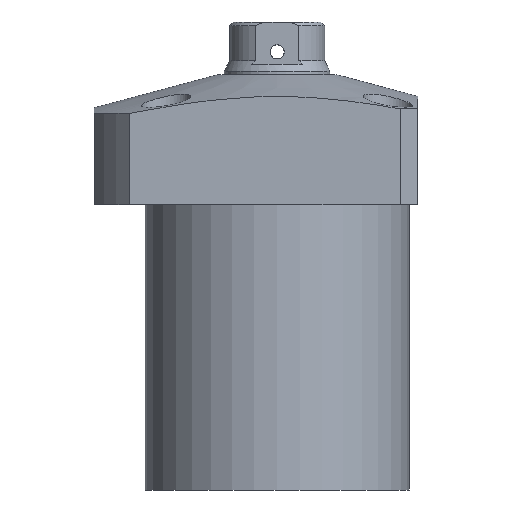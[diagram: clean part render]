
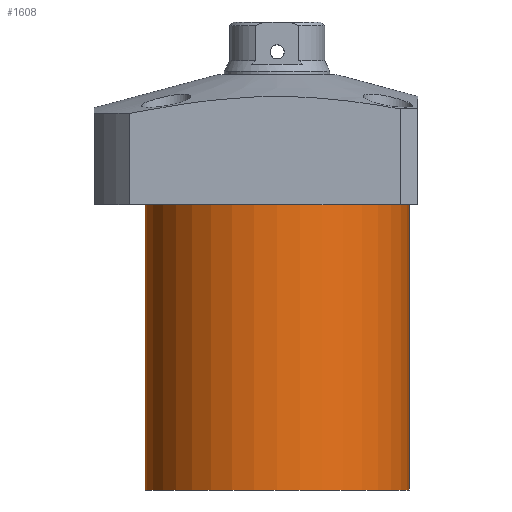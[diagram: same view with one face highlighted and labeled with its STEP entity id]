
A CAD part, front view. The second image highlights one B-rep face of the part: STEP entity #1608.
In plain terms, the highlighted cylindrical face has radius 37.5 mm (diameter 75 mm), a partial arc.
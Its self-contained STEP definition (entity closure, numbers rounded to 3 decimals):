
#55 = VECTOR ( 'NONE', #1422, 1000. ) ;
#71 = EDGE_CURVE ( 'NONE', #261, #545, #245, .T. ) ;
#138 = CARTESIAN_POINT ( 'NONE',  ( 0., 0., -99.5 ) ) ;
#149 = CARTESIAN_POINT ( 'NONE',  ( 0., 0., -99.5 ) ) ;
#245 = CIRCLE ( 'NONE', #327, 37.5 ) ;
#261 = VERTEX_POINT ( 'NONE', #1863 ) ;
#327 = AXIS2_PLACEMENT_3D ( 'NONE', #2515, #2526, #798 ) ;
#351 = FACE_OUTER_BOUND ( 'NONE', #1624, .T. ) ;
#368 = DIRECTION ( 'NONE',  ( 0., 0., 1. ) ) ;
#410 = CARTESIAN_POINT ( 'NONE',  ( 37.5, 0., -99.5 ) ) ;
#427 = VECTOR ( 'NONE', #2055, 1000. ) ;
#450 = ORIENTED_EDGE ( 'NONE', *, *, #2692, .F. ) ;
#545 = VERTEX_POINT ( 'NONE', #1881 ) ;
#596 = DIRECTION ( 'NONE',  ( 1., 0., 0. ) ) ;
#753 = AXIS2_PLACEMENT_3D ( 'NONE', #149, #368, #596 ) ;
#758 = ORIENTED_EDGE ( 'NONE', *, *, #1477, .T. ) ;
#798 = DIRECTION ( 'NONE',  ( 1., 0., 0. ) ) ;
#890 = ORIENTED_EDGE ( 'NONE', *, *, #71, .T. ) ;
#1084 = CARTESIAN_POINT ( 'NONE',  ( -37.5, 0., -99.5 ) ) ;
#1171 = CARTESIAN_POINT ( 'NONE',  ( 37.5, 0., -99.5 ) ) ;
#1187 = VERTEX_POINT ( 'NONE', #410 ) ;
#1209 = VERTEX_POINT ( 'NONE', #1084 ) ;
#1282 = AXIS2_PLACEMENT_3D ( 'NONE', #138, #1398, #2516 ) ;
#1398 = DIRECTION ( 'NONE',  ( 0., 0., -1. ) ) ;
#1419 = CYLINDRICAL_SURFACE ( 'NONE', #753, 37.5 ) ;
#1422 = DIRECTION ( 'NONE',  ( 0., 0., 1. ) ) ;
#1477 = EDGE_CURVE ( 'NONE', #1187, #261, #2613, .T. ) ;
#1608 = ADVANCED_FACE ( 'NONE', ( #351 ), #1419, .T. ) ;
#1624 = EDGE_LOOP ( 'NONE', ( #450, #2204, #758, #890 ) ) ;
#1712 = CIRCLE ( 'NONE', #1282, 37.5 ) ;
#1739 = LINE ( 'NONE', #2053, #55 ) ;
#1863 = CARTESIAN_POINT ( 'NONE',  ( 37.5, 0., -18.5 ) ) ;
#1881 = CARTESIAN_POINT ( 'NONE',  ( -37.5, 0., -18.5 ) ) ;
#1975 = EDGE_CURVE ( 'NONE', #1187, #1209, #1712, .T. ) ;
#2053 = CARTESIAN_POINT ( 'NONE',  ( -37.5, 0., -99.5 ) ) ;
#2055 = DIRECTION ( 'NONE',  ( 0., 0., 1. ) ) ;
#2204 = ORIENTED_EDGE ( 'NONE', *, *, #1975, .F. ) ;
#2515 = CARTESIAN_POINT ( 'NONE',  ( 0., 0., -18.5 ) ) ;
#2516 = DIRECTION ( 'NONE',  ( -1., 0., 0. ) ) ;
#2526 = DIRECTION ( 'NONE',  ( 0., 0., -1. ) ) ;
#2613 = LINE ( 'NONE', #1171, #427 ) ;
#2692 = EDGE_CURVE ( 'NONE', #1209, #545, #1739, .T. ) ;
